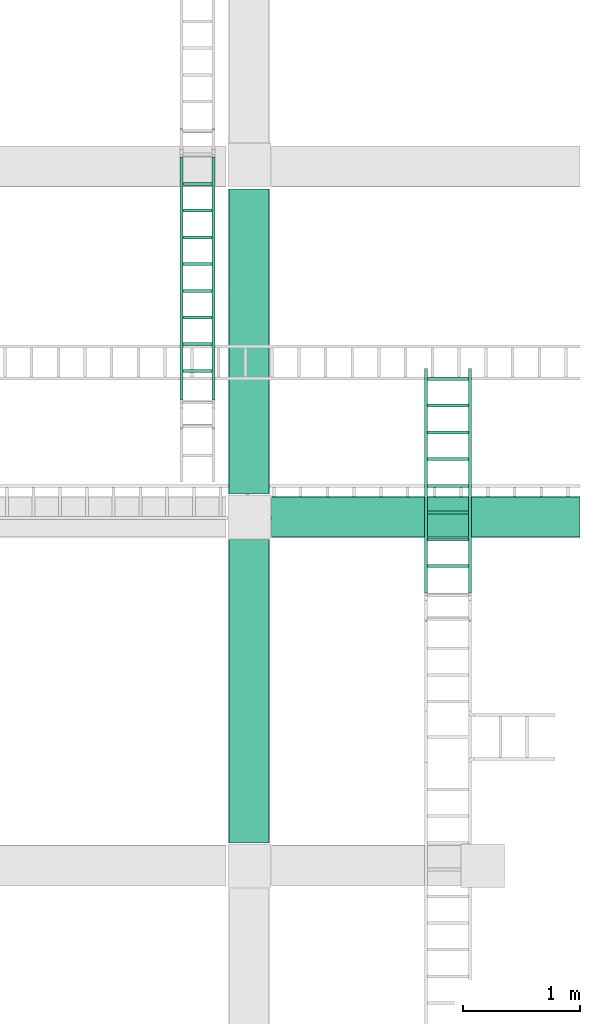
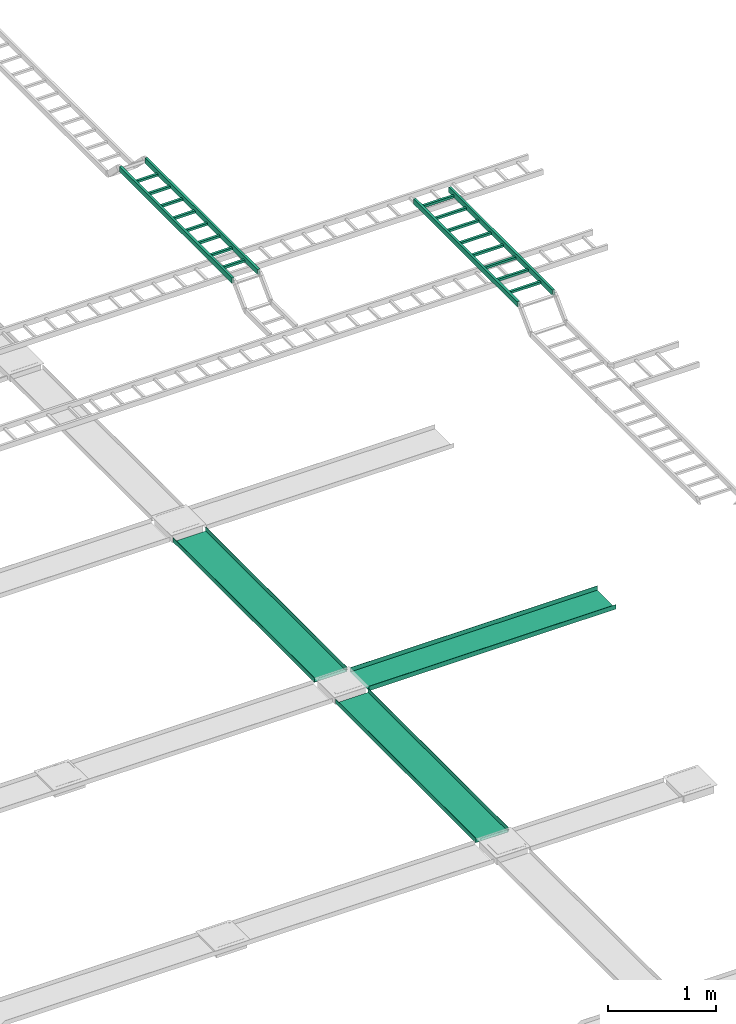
# One storey, part 11 of 16: 5 flow segments.
"""IFC2X3 building model written with IfcOpenShell, lengths in millimetres."""

from ifc_helpers import new_model, entity, si_unit, converted_unit, derived_unit, direction, frame, origin_with_axes, place, context, subcontext, project, spatial, open_shell, faceted_brep, surface_model, source, transform, mapped, type_object, element, save


model = new_model("IFC2X3")

# Units and contexts
model_context = context("Model", 3, precision=0.01, world=frame((0.0, 4.29681676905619e-09, 0.0)), true_north=direction((4.01073788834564e-13, 1.0)))
plan_context = context("Plan", 3, precision=0.01, world=frame((0.0, 4.29681676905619e-09, 0.0)), true_north=direction((4.01073788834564e-13, 1.0)))
body_context = subcontext(model_context, "Body", "Model", "MODEL_VIEW")
ifc_project = project(units=[converted_unit("PLANEANGLEUNIT", "DEGREE", entity("IfcPositiveLengthMeasure", 0.0174532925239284), si_unit("PLANEANGLEUNIT", "RADIAN"), dimensions=[0, 0, 0, 0, 0, 0, 0]), si_unit("AREAUNIT", "SQUARE_METRE"), si_unit("LENGTHUNIT", "METRE", prefix="MILLI"), si_unit("MASSUNIT", "GRAM", prefix="KILO"), si_unit("POWERUNIT", "WATT"), si_unit("PRESSUREUNIT", "PASCAL"), si_unit("FORCEUNIT", "NEWTON", prefix="KILO"), si_unit("ELECTRICVOLTAGEUNIT", "VOLT"), si_unit("ELECTRICCURRENTUNIT", "AMPERE"), si_unit("THERMODYNAMICTEMPERATUREUNIT", "DEGREE_CELSIUS"), si_unit("TIMEUNIT", "SECOND"), si_unit("VOLUMEUNIT", "CUBIC_METRE"), derived_unit("LINEARVELOCITYUNIT", [(si_unit("LENGTHUNIT", "METRE"), 1), (si_unit("TIMEUNIT", "SECOND"), -1)]), derived_unit("VOLUMETRICFLOWRATEUNIT", [(si_unit("VOLUMEUNIT", "CUBIC_METRE"), 1), (si_unit("TIMEUNIT", "SECOND"), -1)]), derived_unit("THERMALTRANSMITTANCEUNIT", [(si_unit("POWERUNIT", "WATT"), 1), (si_unit("THERMODYNAMICTEMPERATUREUNIT", "KELVIN"), -1), (si_unit("AREAUNIT", "SQUARE_METRE"), -1)]), derived_unit("SOUNDPRESSUREUNIT", [(si_unit("PRESSUREUNIT", "PASCAL"), 1)])], contexts=[model_context, plan_context])

# Site, building, storey
site_placement = place(None, frame((0.0, -4.29681676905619e-09, 0.0), z_axis=(0.0, 0.0, 1.0), x_axis=(1.0, 0.0, 0.0)))
site = spatial("IfcSite", under=ifc_project, at=site_placement, Name="ENGM", CompositionType="ELEMENT")
building_placement = place(site_placement, frame((0.0, 4.29681676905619e-09, 0.0), z_axis=(0.0, 0.0, 1.0), x_axis=(1.0, 0.0, 0.0)))
building = spatial("IfcBuilding", under=site, at=building_placement, Name="TS", CompositionType="ELEMENT")
storey_placement = place(building_placement, frame((0.0, 0.0, 210900.0), z_axis=(0.0, 0.0, 1.0), x_axis=(1.0, 0.0, 0.0)))
storey = spatial("IfcBuildingStorey", under=building, at=storey_placement, Name="Nivå F", CompositionType="ELEMENT", Elevation=210900.0)

# Flow segments
cable_carrier_segment_type_1 = type_object("IfcCableCarrierSegmentType", Name="Kabelbane", PredefinedType="CABLETRAYSEGMENT")
shared_shape_1 = source(origin_with_axes(), body_context, "Body", "SurfaceModel", [
    surface_model("IfcShellBasedSurfaceModel", [(0.0, -175.0, 25.0), (0.0, -172.46, -22.46), (0.0, -175.0, -25.0), (0.0, 175.0, -25.0), (0.0, -172.46, 25.0), (0.0, 175.0, 25.0), (0.0, 172.46, -22.46), (0.0, 172.46, 25.0), (2608.96691, -172.46, 25.0), (2608.96691, -175.0, 25.0), (2608.96691, -172.46, -22.46), (2608.96691, 175.0, 25.0), (2608.96691, 172.46, 25.0), (2608.96691, 172.46, -22.46), (2608.96691, -175.0, -25.0), (2608.96691, 175.0, -25.0)], [open_shell([[[0, 1, 2]], [[3, 2, 1]], [[1, 0, 4]], [[5, 3, 6]], [[1, 6, 3]], [[6, 7, 5]], [[8, 9, 10]], [[11, 12, 13]], [[10, 14, 15]], [[14, 10, 9]], [[13, 15, 11]], [[15, 13, 10]], [[0, 2, 14]], [[14, 9, 0]], [[4, 0, 9]], [[9, 8, 4]], [[1, 4, 10]], [[8, 10, 4]], [[6, 1, 13]], [[10, 13, 1]], [[7, 6, 12]], [[13, 12, 6]], [[5, 7, 12]], [[12, 11, 5]], [[3, 5, 11]], [[11, 15, 3]], [[2, 3, 14]], [[15, 14, 3]]])]),
])
flow_segment_1_placement = place(storey_placement, frame((533489.50798, 454800.98922, -35.0), z_axis=(0.0, 0.0, 1.0), x_axis=(0.0, -1.0, 0.0)))
element("IfcFlowSegment", 1, at=flow_segment_1_placement, inside=storey, type_object=cable_carrier_segment_type_1, Name="Kabelbane", context=body_context, shape_type="MappedRepresentation", body=[
    mapped(shared_shape_1, transform((0.0, 0.0, 0.0), scale=1.0)),
])
shared_shape_2 = source(origin_with_axes(), body_context, "Body", "SurfaceModel", [
    surface_model("IfcShellBasedSurfaceModel", [(0.0, -175.0, 25.0), (0.0, -172.46, -22.46), (0.0, -175.0, -25.0), (0.0, 175.0, -25.0), (0.0, -172.46, 25.0), (0.0, 175.0, 25.0), (0.0, 172.46, -22.46), (0.0, 172.46, 25.0), (2592.85743, -172.46, 25.0), (2592.85743, -175.0, 25.0), (2592.85743, -172.46, -22.46), (2592.85743, 175.0, 25.0), (2592.85743, 172.46, 25.0), (2592.85743, 172.46, -22.46), (2592.85743, -175.0, -25.0), (2592.85743, 175.0, -25.0)], [open_shell([[[0, 1, 2]], [[3, 2, 1]], [[1, 0, 4]], [[5, 3, 6]], [[1, 6, 3]], [[6, 7, 5]], [[8, 9, 10]], [[11, 12, 13]], [[10, 14, 15]], [[14, 10, 9]], [[13, 15, 11]], [[15, 13, 10]], [[0, 2, 14]], [[14, 9, 0]], [[4, 0, 9]], [[9, 8, 4]], [[1, 4, 10]], [[8, 10, 4]], [[6, 1, 10]], [[10, 13, 6]], [[7, 6, 12]], [[13, 12, 6]], [[5, 7, 12]], [[12, 11, 5]], [[3, 5, 11]], [[11, 15, 3]], [[2, 3, 14]], [[15, 14, 3]]])]),
])
flow_segment_2_placement = place(storey_placement, frame((533489.50798, 451802.0222, -35.0), z_axis=(0.0, 0.0, 1.0), x_axis=(0.0, -1.0, 0.0)))
element("IfcFlowSegment", 2, at=flow_segment_2_placement, inside=storey, type_object=cable_carrier_segment_type_1, Name="Kabelbane", context=body_context, shape_type="MappedRepresentation", body=[
    mapped(shared_shape_2, transform((0.0, 0.0, 0.0), scale=1.0)),
])
cable_carrier_segment_type_2 = type_object("IfcCableCarrierSegmentType", Name="Kabelbro", PredefinedType="CABLELADDERSEGMENT")
shared_shape_3 = source(origin_with_axes(), body_context, "Body", "SurfaceModel", [
    surface_model("IfcShellBasedSurfaceModel", [(0.0, -174.60001, 30.0), (0.0, -174.60001, -30.0), (0.0, -200.0, -30.0), (0.0, -200.0, 30.0), (0.0, 200.0, 30.0), (0.0, 200.0, -30.0), (0.0, 174.60001, -30.0), (0.0, 174.60001, 30.0), (215.89999, -174.60001, -30.0), (241.30001, -174.60001, -30.0), (241.30001, -174.60001, -4.6), (215.89999, -174.60001, -4.6), (241.30001, 174.60001, -4.6), (241.30001, 174.60001, -30.0), (215.89999, 174.60001, -30.0), (215.89999, 174.60001, -4.6), (444.50001, -174.60001, -30.0), (469.89999, -174.60001, -30.0), (469.89999, -174.60001, -4.6), (444.50001, -174.60001, -4.6), (469.89999, 174.60001, -4.6), (469.89999, 174.60001, -30.0), (444.50001, 174.60001, -30.0), (444.50001, 174.60001, -4.6), (673.09998, -174.60001, -30.0), (698.50002, -174.60001, -30.0), (698.50002, -174.60001, -4.6), (673.09998, -174.60001, -4.6), (698.50002, 174.60001, -4.6), (698.50002, 174.60001, -30.0), (673.09998, 174.60001, -30.0), (673.09998, 174.60001, -4.6), (901.69998, -174.60001, -30.0), (927.10002, -174.60001, -30.0), (927.10002, -174.60001, -4.6), (901.69998, -174.60001, -4.6), (927.10002, 174.60001, -4.6), (927.10002, 174.60001, -30.0), (901.69998, 174.60001, -30.0), (901.69998, 174.60001, -4.6), (1130.29998, -174.60001, -30.0), (1155.70002, -174.60001, -30.0), (1155.70002, -174.60001, -4.6), (1130.29998, -174.60001, -4.6), (1155.70002, 174.60001, -4.6), (1155.70002, 174.60001, -30.0), (1130.29998, 174.60001, -30.0), (1130.29998, 174.60001, -4.6), (1358.90005, -174.60001, -30.0), (1384.29995, -174.60001, -30.0), (1384.29995, -174.60001, -4.6), (1358.90005, -174.60001, -4.6), (1384.29995, 174.60001, -4.6), (1384.29995, 174.60001, -30.0), (1358.90005, 174.60001, -30.0), (1358.90005, 174.60001, -4.6), (1587.50005, -174.60001, -30.0), (1612.89995, -174.60001, -30.0), (1612.89995, -174.60001, -4.6), (1587.50005, -174.60001, -4.6), (1612.89995, 174.60001, -4.6), (1612.89995, 174.60001, -30.0), (1587.50005, 174.60001, -30.0), (1587.50005, 174.60001, -4.6), (1816.10005, -174.60001, -30.0), (1841.49995, -174.60001, -30.0), (1841.49995, -174.60001, -4.6), (1816.10005, -174.60001, -4.6), (1841.49995, 174.60001, -4.6), (1841.49995, 174.60001, -30.0), (1816.10005, 174.60001, -30.0), (1816.10005, 174.60001, -4.6), (1917.27919, -200.0, -30.0), (1917.27919, -174.60001, -30.0), (1917.27919, -174.60001, 30.0), (1917.27919, -200.0, 30.0), (1917.27919, 174.60001, -30.0), (1917.27919, 200.0, -30.0), (1917.27919, 200.0, 30.0), (1917.27919, 174.60001, 30.0)], [open_shell([[[0, 1, 2]], [[2, 3, 0]], [[4, 5, 6]], [[6, 7, 4]], [[8, 9, 10]], [[10, 11, 8]], [[12, 13, 14]], [[14, 15, 12]], [[10, 9, 13]], [[13, 12, 10]], [[11, 10, 15]], [[12, 15, 10]], [[8, 11, 15]], [[15, 14, 8]], [[9, 8, 13]], [[14, 13, 8]], [[16, 17, 18]], [[18, 19, 16]], [[20, 21, 22]], [[22, 23, 20]], [[18, 17, 21]], [[21, 20, 18]], [[19, 18, 23]], [[20, 23, 18]], [[16, 19, 23]], [[23, 22, 16]], [[17, 16, 21]], [[22, 21, 16]], [[24, 25, 26]], [[26, 27, 24]], [[28, 29, 30]], [[30, 31, 28]], [[26, 25, 29]], [[29, 28, 26]], [[27, 26, 31]], [[28, 31, 26]], [[24, 27, 31]], [[31, 30, 24]], [[25, 24, 29]], [[30, 29, 24]], [[32, 33, 34]], [[34, 35, 32]], [[36, 37, 38]], [[38, 39, 36]], [[34, 33, 37]], [[37, 36, 34]], [[35, 34, 39]], [[36, 39, 34]], [[32, 35, 39]], [[39, 38, 32]], [[33, 32, 37]], [[38, 37, 32]], [[40, 41, 42]], [[42, 43, 40]], [[44, 45, 46]], [[46, 47, 44]], [[42, 41, 45]], [[45, 44, 42]], [[43, 42, 47]], [[44, 47, 42]], [[40, 43, 47]], [[47, 46, 40]], [[41, 40, 45]], [[46, 45, 40]], [[48, 49, 50]], [[50, 51, 48]], [[52, 53, 54]], [[54, 55, 52]], [[50, 49, 53]], [[53, 52, 50]], [[51, 50, 55]], [[52, 55, 50]], [[48, 51, 55]], [[55, 54, 48]], [[49, 48, 53]], [[54, 53, 48]], [[56, 57, 58]], [[58, 59, 56]], [[60, 61, 62]], [[62, 63, 60]], [[58, 57, 61]], [[61, 60, 58]], [[59, 58, 63]], [[60, 63, 58]], [[56, 59, 63]], [[63, 62, 56]], [[57, 56, 61]], [[62, 61, 56]], [[64, 65, 66]], [[66, 67, 64]], [[68, 69, 70]], [[70, 71, 68]], [[66, 65, 69]], [[69, 68, 66]], [[67, 66, 71]], [[68, 71, 66]], [[64, 67, 71]], [[71, 70, 64]], [[65, 64, 69]], [[70, 69, 64]], [[72, 73, 74]], [[74, 75, 72]], [[76, 77, 78]], [[78, 79, 76]], [[3, 2, 75]], [[72, 75, 2]], [[0, 3, 74]], [[75, 74, 3]], [[1, 0, 73]], [[74, 73, 0]], [[2, 1, 72]], [[73, 72, 1]], [[5, 4, 77]], [[78, 77, 4]], [[6, 5, 76]], [[77, 76, 5]], [[7, 6, 79]], [[76, 79, 6]], [[4, 7, 78]], [[79, 78, 7]]])]),
])
flow_segment_3_placement = place(storey_placement, frame((535192.55901, 451348.51307, 4125.0), z_axis=(0.0, 0.0, 1.0), x_axis=(0.0, 1.0, 0.0)))
element("IfcFlowSegment", 3, at=flow_segment_3_placement, inside=storey, type_object=cable_carrier_segment_type_2, Name="Kabelbro", context=body_context, shape_type="MappedRepresentation", body=[
    mapped(shared_shape_3, transform((0.0, 0.0, 0.0), scale=1.0)),
])
shared_shape_4 = source(origin_with_axes(), body_context, "Body", "SurfaceModel", [
    surface_model("IfcShellBasedSurfaceModel", [(241.30001, -124.6, -4.6), (241.30001, -124.6, -30.0), (241.30001, 124.6, -30.0), (241.30001, 124.6, -4.6), (215.89999, -124.6, -4.6), (215.89999, 124.6, -4.6), (215.89999, -124.6, -30.0), (215.89999, 124.6, -30.0), (469.89999, -124.6, -4.6), (469.89999, -124.6, -30.0), (469.89999, 124.6, -30.0), (469.89999, 124.6, -4.6), (444.50001, -124.6, -4.6), (444.50001, 124.6, -4.6), (444.50001, -124.6, -30.0), (444.50001, 124.6, -30.0), (698.50002, -124.6, -4.6), (698.50002, -124.6, -30.0), (698.50002, 124.6, -30.0), (698.50002, 124.6, -4.6), (673.09998, -124.6, -4.6), (673.09998, 124.6, -4.6), (673.09998, -124.6, -30.0), (673.09998, 124.6, -30.0), (927.10002, -124.6, -4.6), (927.10002, -124.6, -30.0), (927.10002, 124.6, -30.0), (927.10002, 124.6, -4.6), (901.69998, -124.6, -4.6), (901.69998, 124.6, -4.6), (901.69998, -124.6, -30.0), (901.69998, 124.6, -30.0), (1155.70002, -124.6, -4.6), (1155.70002, -124.6, -30.0), (1155.70002, 124.6, -30.0), (1155.70002, 124.6, -4.6), (1130.29998, -124.6, -4.6), (1130.29998, 124.6, -4.6), (1130.29998, -124.6, -30.0), (1130.29998, 124.6, -30.0), (1384.29995, -124.6, -4.6), (1384.29995, -124.6, -30.0), (1384.29995, 124.6, -30.0), (1384.29995, 124.6, -4.6), (1358.90005, -124.6, -4.6), (1358.90005, 124.6, -4.6), (1358.90005, -124.6, -30.0), (1358.90005, 124.6, -30.0), (1612.89995, -124.6, -4.6), (1612.89995, -124.6, -30.0), (1612.89995, 124.6, -30.0), (1612.89995, 124.6, -4.6), (1587.50005, -124.6, -4.6), (1587.50005, 124.6, -4.6), (1587.50005, -124.6, -30.0), (1587.50005, 124.6, -30.0), (1841.49995, -124.6, -4.6), (1841.49995, -124.6, -30.0), (1841.49995, 124.6, -30.0), (1841.49995, 124.6, -4.6), (1816.10005, -124.6, -4.6), (1816.10005, 124.6, -4.6), (1816.10005, -124.6, -30.0), (1816.10005, 124.6, -30.0), (0.0, -124.6, 30.0), (0.0, -124.6, -30.0), (0.0, -150.0, -30.0), (0.0, -150.0, 30.0), (0.0, 150.0, 30.0), (0.0, 150.0, -30.0), (0.0, 124.6, -30.0), (0.0, 124.6, 30.0), (2077.95427, -124.6, 30.0), (2077.95427, -150.0, 30.0), (2077.95427, -150.0, -30.0), (2077.95427, -124.6, -30.0), (2077.95427, 150.0, 30.0), (2077.95427, 124.6, 30.0), (2077.95427, 124.6, -30.0), (2077.95427, 150.0, -30.0)], [open_shell([[[0, 1, 2]], [[2, 3, 0]], [[4, 0, 5]], [[3, 5, 0]], [[6, 4, 5]], [[5, 7, 6]], [[1, 6, 2]], [[7, 2, 6]], [[8, 9, 10]], [[10, 11, 8]], [[12, 8, 13]], [[11, 13, 8]], [[14, 12, 13]], [[13, 15, 14]], [[9, 14, 10]], [[15, 10, 14]], [[16, 17, 18]], [[18, 19, 16]], [[20, 16, 21]], [[19, 21, 16]], [[22, 20, 21]], [[21, 23, 22]], [[17, 22, 18]], [[23, 18, 22]], [[24, 25, 26]], [[26, 27, 24]], [[28, 24, 29]], [[27, 29, 24]], [[30, 28, 29]], [[29, 31, 30]], [[25, 30, 26]], [[31, 26, 30]], [[32, 33, 34]], [[34, 35, 32]], [[36, 32, 37]], [[35, 37, 32]], [[38, 36, 37]], [[37, 39, 38]], [[33, 38, 34]], [[39, 34, 38]], [[40, 41, 42]], [[42, 43, 40]], [[44, 40, 45]], [[43, 45, 40]], [[46, 44, 45]], [[45, 47, 46]], [[41, 46, 42]], [[47, 42, 46]], [[48, 49, 50]], [[50, 51, 48]], [[52, 48, 53]], [[51, 53, 48]], [[54, 52, 53]], [[53, 55, 54]], [[49, 54, 50]], [[55, 50, 54]], [[56, 57, 58]], [[58, 59, 56]], [[60, 56, 61]], [[59, 61, 56]], [[62, 60, 61]], [[61, 63, 62]], [[57, 62, 58]], [[63, 58, 62]], [[64, 65, 66]], [[66, 67, 64]], [[68, 69, 70]], [[70, 71, 68]], [[6, 1, 0]], [[0, 4, 6]], [[3, 2, 7]], [[7, 5, 3]], [[14, 9, 8]], [[8, 12, 14]], [[11, 10, 15]], [[15, 13, 11]], [[22, 17, 16]], [[16, 20, 22]], [[19, 18, 23]], [[23, 21, 19]], [[30, 25, 24]], [[24, 28, 30]], [[27, 26, 31]], [[31, 29, 27]], [[38, 33, 32]], [[32, 36, 38]], [[35, 34, 39]], [[39, 37, 35]], [[46, 41, 40]], [[40, 44, 46]], [[43, 42, 47]], [[47, 45, 43]], [[54, 49, 48]], [[48, 52, 54]], [[51, 50, 55]], [[55, 53, 51]], [[62, 57, 56]], [[56, 60, 62]], [[59, 58, 63]], [[63, 61, 59]], [[72, 73, 74]], [[74, 75, 72]], [[76, 77, 78]], [[78, 79, 76]], [[67, 66, 73]], [[74, 73, 66]], [[64, 67, 73]], [[73, 72, 64]], [[65, 64, 72]], [[72, 75, 65]], [[66, 65, 75]], [[75, 74, 66]], [[69, 68, 76]], [[76, 79, 69]], [[70, 69, 79]], [[79, 78, 70]], [[71, 70, 77]], [[78, 77, 70]], [[68, 71, 77]], [[77, 76, 68]]])]),
])
flow_segment_4_placement = place(storey_placement, frame((533049.50798, 455074.57975, 4125.0), z_axis=(0.0, 0.0, 1.0), x_axis=(0.0, -1.0, 0.0)))
element("IfcFlowSegment", 4, at=flow_segment_4_placement, inside=storey, type_object=cable_carrier_segment_type_2, Name="Kabelbro", context=body_context, shape_type="MappedRepresentation", body=[
    mapped(shared_shape_4, transform((0.0, 0.0, 0.0), scale=1.0)),
])
flow_segment_5_placement = place(storey_placement, frame((533684.50798, 451997.0222, -35.0), z_axis=(0.0, 0.0, 1.0), x_axis=(1.0, 0.0, 0.0)))
element("IfcFlowSegment", 5, at=flow_segment_5_placement, inside=storey, type_object=cable_carrier_segment_type_1, Name="Kabelbane", context=body_context, shape_type="Brep", body=[
    faceted_brep([(0.0, -175.0, -25.0), (0.0, -172.46, -22.46), (0.0, -175.0, 25.0), (0.0, -172.46, 25.0), (0.0, 175.0, -25.0), (0.0, 172.46, -22.46), (0.0, 175.0, 25.0), (0.0, 172.46, 25.0), (2635.9920200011, -175.0, 25.0), (2635.9920200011, -175.0, -9.68466713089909), (2635.9920200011, -175.0, -25.0), (2635.9920200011, -172.46, 25.0), (2635.9920200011, -174.22198109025, 25.0), (2635.9920200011, -172.46, -22.46), (2635.9920200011, -172.46, 10.4626860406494), (2635.9920200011, 66.8087077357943, -22.46), (2635.9920200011, 172.46, -22.46), (2635.9920200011, 172.46, 25.0), (2635.9920200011, 172.46, -7.92268604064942), (2635.9920200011, 175.0, 25.0), (2635.9920200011, 173.23801890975, 25.0), (2635.9920200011, 175.0, -25.0), (2635.9920200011, 175.0, 9.68466713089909), (2635.9920200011, 67.7926699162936, -25.0)], [[[0, 1, 2]], [[3, 2, 1]], [[1, 0, 4]], [[4, 5, 1]], [[5, 4, 6]], [[6, 7, 5]], [[8, 9, 0, 2]], [[9, 10, 0]], [[11, 12, 2, 3]], [[12, 8, 2]], [[13, 14, 3, 1]], [[14, 11, 3]], [[15, 13, 1, 5]], [[16, 15, 5]], [[17, 18, 5, 7]], [[18, 16, 5]], [[19, 20, 7, 6]], [[20, 17, 7]], [[21, 22, 6, 4]], [[22, 19, 6]], [[10, 23, 4, 0]], [[23, 21, 4]], [[12, 11, 14, 13, 15, 16, 18, 17, 20, 19, 22, 21, 23, 10, 9, 8]]], orient=[[False], [False], [False], [False], [False], [False], [False], [False], [False], [False], [False], [False], [False], [False], [False], [False], [False], [False], [False], [False], [False], [False], [False]]),
])

save(model, "model.ifc")
